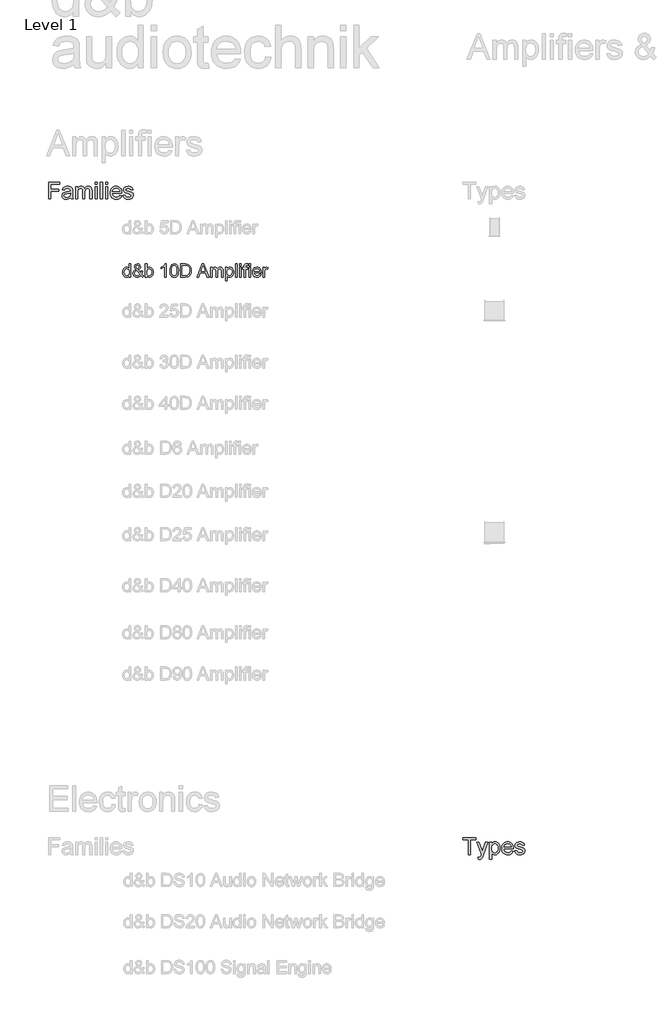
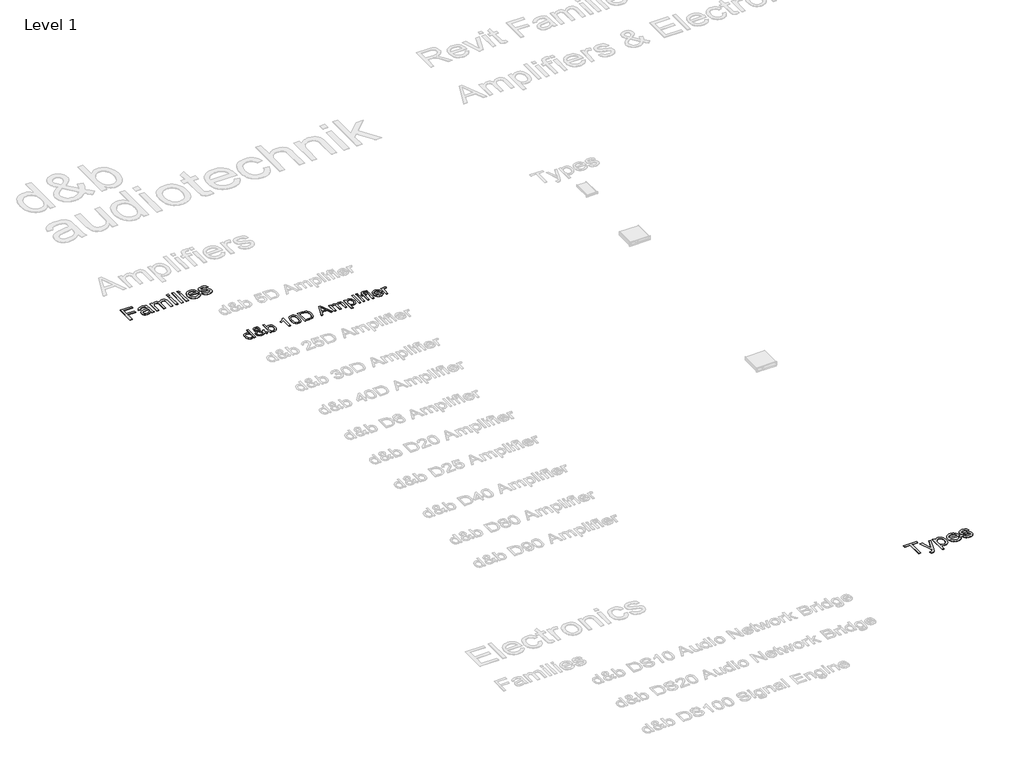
# One storey, part 10 of 14: 3 proxies.
"""IFC4 building model written with IfcOpenShell, lengths in millimetres."""

from ifc_helpers import new_model, si_unit, origin, origin_with_axes, place, context, project, spatial, polyline, outline, extrude, element, save

model = new_model("IFC4")

# Units and contexts
model_context = context("Model", 3, world=origin())
ifc_project = project(units=[si_unit("LENGTHUNIT", "METRE", prefix="MILLI")], contexts=[model_context])

# Site, building, storey
site = spatial("IfcSite", under=ifc_project)
building = spatial("IfcBuilding", under=site)
storey = spatial("IfcBuildingStorey", under=building, Name="Level 1", Elevation=0.0)

# Proxies
placement = place(None, origin())
element("IfcBuildingElementProxy", 1, Name="300mm Arial", ObjectType="300mm Arial", at=placement, inside=storey, context=model_context, shape_type="SweptSolid", body=[
    extrude(outline(polyline([(-19191.0990778, 15547.5788956), (-19191.0990778, 15583.1162963), (-19202.3700624, 15565.5085443), (-19216.0230829, 15552.9315786), (-19232.0581394, 15545.3853992), (-19250.4752318, 15542.870006), (-19274.8290199, 15546.5120378), (-19297.1226688, 15557.438133), (-19315.9950151, 15574.8849367), (-19330.0848956, 15598.0890935), (-19338.8588811, 15626.1125045), (-19341.783543, 15658.0170705), (-19339.0888074, 15689.5261634), (-19331.0046005, 15717.9818357), (-19317.5401195, 15741.7654067), (-19298.7045614, 15759.2581956), (-19275.9234688, 15770.018744), (-19250.6223846, 15773.6055934), (-19232.1914966, 15771.0396165), (-19215.8943242, 15763.3416858), (-19202.0803553, 15751.5418708), (-19191.0990778, 15736.6702411), (-19191.0990778, 15848.947826), (-19153.4279615, 15848.947826), (-19153.4279615, 15547.5788956), (-19191.0990778, 15547.5788956)]), holes=[polyline([(-19304.1124267, 15658.1642233), (-19299.8633896, 15624.0891535), (-19287.1162785, 15599.8549271), (-19268.5934201, 15585.3695735), (-19247.017141, 15580.5411223), (-19225.4500591, 15585.1488443), (-19207.3962502, 15598.9720103), (-19195.1733709, 15622.2681376), (-19191.0990778, 15655.2947438), (-19195.2469473, 15691.4023616), (-19207.6905558, 15716.4367314), (-19226.2042172, 15731.0600407), (-19248.5622454, 15735.9344771), (-19270.3592536, 15731.2531787), (-19288.2199245, 15717.2092836), (-19300.1393011, 15693.0854217), (-19304.1124267, 15658.1642233)])]), origin_with_axes(), (0.0, 0.0, 1.0), 5.0),
    extrude(outline(polyline([(-18924.0903257, 15584.8085535), (-18943.2385835, 15566.460439), (-18964.0423104, 15553.3546429), (-18986.5382944, 15545.4911653), (-19010.7633237, 15542.870006), (-19032.744273, 15544.8105836), (-19052.3339892, 15550.6323161), (-19069.5324725, 15560.3352038), (-19084.3397228, 15573.9192464), (-19100.8392303, 15600.7194498), (-19106.3390661, 15630.4994973), (-19101.9152851, 15656.8950304), (-19088.6439421, 15680.605025), (-19066.5802195, 15701.611087), (-19035.7792994, 15719.8948221), (-19062.0828621, 15758.0073968), (-19068.6679498, 15786.260734), (-19063.4808136, 15811.699774), (-19047.9194053, 15833.5703586), (-19024.5037163, 15848.6351263), (-18995.7537383, 15853.6567156), (-18968.401712, 15848.8558555), (-18946.5311274, 15834.4532754), (-18932.1837296, 15813.3184548), (-18927.4012636, 15788.3208732), (-18930.9421278, 15767.3332054), (-18941.5647204, 15747.9274302), (-18959.2690415, 15730.1035475), (-18984.0550909, 15713.8615574), (-18929.5349792, 15645.9505411), (-18920.2459588, 15665.3563163), (-18913.274595, 15687.6683593), (-18875.6034787, 15679.501379), (-18887.1917616, 15644.6077718), (-18902.2381352, 15617.4764747), (-18880.827403, 15592.4972872), (-18856.7679206, 15571.8591073), (-18885.0212578, 15542.870006), (-18904.243092, 15560.4547654), (-18924.0903257, 15584.8085535)]), holes=[polyline([(-18949.3270305, 15611.9582447), (-19016.5758593, 15695.908916), (-19042.2632196, 15679.5197731), (-19057.9625837, 15664.3446408), (-19065.9916083, 15649.8500902), (-19068.6679498, 15635.5026924), (-19065.0075239, 15617.7339921), (-19054.0262464, 15599.3031041), (-19036.3311224, 15585.2316178), (-19012.5291573, 15580.5411223), (-18995.4870239, 15582.7300202), (-18977.9114616, 15589.2967138), (-18961.8442154, 15599.3398923), (-18949.3270305, 15611.9582447)]), polyline([(-19003.1113782, 15737.6267343), (-18983.4112974, 15750.1255251), (-18972.1357142, 15760.987241), (-18966.8382135, 15771.5546513), (-18965.0723799, 15783.1705253), (-18967.3992336, 15796.3315037), (-18974.3797944, 15806.8253376), (-18984.8552342, 15813.6955338), (-18997.6667247, 15815.9855993), (-19010.7541267, 15813.7139279), (-19021.4686898, 15806.898914), (-19028.6147976, 15796.8097503), (-19030.9968335, 15784.7156297), (-19027.7594719, 15770.9200549), (-19017.9738108, 15755.5793757), (-19003.1113782, 15737.6267343)])]), origin_with_axes(), (0.0, 0.0, 1.0), 5.0),
    extrude(outline(polyline([(-18781.4256879, 15547.5788956), (-18819.0968043, 15547.5788956), (-18819.0968043, 15848.947826), (-18781.4256879, 15848.947826), (-18781.4256879, 15737.1852759), (-18769.0372618, 15753.1191648), (-18755.0485489, 15764.500514), (-18739.4595493, 15771.3293236), (-18722.2702631, 15773.6055934), (-18702.8644879, 15771.5546513), (-18684.5255704, 15765.4018249), (-18668.3019744, 15755.5333904), (-18655.2421636, 15742.3356238), (-18645.0058471, 15725.9372839), (-18637.252734, 15706.4671293), (-18632.3691005, 15684.7345004), (-18630.7412227, 15661.5487377), (-18632.4265821, 15634.7945196), (-18637.4826603, 15611.2592689), (-18645.9094572, 15590.9429858), (-18657.706973, 15573.84567), (-18671.8681305, 15560.293817), (-18687.3858529, 15550.613922), (-18704.2601402, 15544.805985), (-18722.4909923, 15542.870006), (-18740.2458971, 15545.3670051), (-18755.986648, 15552.8580022), (-18769.7132449, 15565.3429974), (-18781.4256879, 15582.8219907), (-18781.4256879, 15547.5788956)]), holes=[polyline([(-18781.4256879, 15659.7829041), (-18778.850514, 15628.3657817), (-18771.1249921, 15607.1022024), (-18761.9969201, 15595.4817299), (-18751.388123, 15587.1813924), (-18739.298601, 15582.2011899), (-18725.7283539, 15580.5411223), (-18703.986528, 15585.4339529), (-18685.4084872, 15600.1124445), (-18672.6613761, 15624.4846267), (-18668.412339, 15658.4585289), (-18672.4866321, 15692.9290719), (-18684.7095114, 15717.0253426), (-18702.708138, 15731.2071935), (-18724.1096731, 15735.9344771), (-18745.851499, 15731.0416466), (-18764.4295398, 15716.363155), (-18777.1766509, 15692.4324312), (-18781.4256879, 15659.7829041)])]), origin_with_axes(), (0.0, 0.0, 1.0), 5.0),
    extrude(outline(polyline([(-18338.7900713, 15547.5788956), (-18376.4611877, 15547.5788956), (-18376.4611877, 15782.4347613), (-18412.1457412, 15757.0141154), (-18451.8034203, 15737.9946163), (-18451.8034203, 15773.6055934), (-18422.2165108, 15789.7004307), (-18396.5843328, 15808.8486886), (-18376.3784142, 15829.210957), (-18363.070283, 15848.947826), (-18338.7900713, 15848.947826), (-18338.7900713, 15547.5788956)])), origin_with_axes(), (0.0, 0.0, 1.0), 5.0),
    extrude(outline(polyline([(-18249.3211701, 15695.8353396), (-18246.5528581, 15744.0738663), (-18238.2479221, 15782.5451259), (-18224.4891354, 15811.8377298), (-18205.3592717, 15832.540289), (-18180.7203751, 15844.8459418), (-18150.4344898, 15848.947826), (-18127.2211359, 15846.5198049), (-18106.4358032, 15839.2357414), (-18089.0533789, 15827.3807441), (-18076.0487504, 15811.2399215), (-18066.2263011, 15790.9512295), (-18058.3904146, 15766.6526237), (-18053.2584608, 15735.7965214), (-18051.5478095, 15695.8353396), (-18054.2885304, 15647.8727245), (-18062.510693, 15609.4934354), (-18076.1867061, 15580.1732404), (-18095.2889787, 15559.3879076), (-18119.9830577, 15546.9994814), (-18150.4344898, 15542.870006), (-18171.1830343, 15544.6634308), (-18189.5771341, 15550.0437049), (-18205.6167891, 15559.0108286), (-18219.3019993, 15571.5648017), (-18232.4353865, 15594.2585222), (-18241.8163774, 15622.5348521), (-18247.4449719, 15656.3937912), (-18249.3211701, 15695.8353396)]), holes=[polyline([(-18211.6500538, 15695.908916), (-18207.2354699, 15636.6523237), (-18201.7172399, 15616.384325), (-18193.991718, 15602.3565247), (-18174.2732431, 15585.9949729), (-18150.4344898, 15580.5411223), (-18126.5957365, 15586.013367), (-18106.8772616, 15602.4301011), (-18099.1517397, 15616.480894), (-18093.6335098, 15636.7442942), (-18089.2189258, 15695.908916), (-18093.486357, 15753.8319362), (-18098.8206459, 15774.0332562), (-18106.2886504, 15788.3944496), (-18125.9703371, 15805.5561447), (-18150.8759482, 15811.2767097), (-18174.4571841, 15806.2367264), (-18193.4031069, 15791.1167764), (-18201.3861462, 15775.4817916), (-18207.0883171, 15754.4021533), (-18211.6500538, 15695.908916)])]), origin_with_axes(), (0.0, 0.0, 1.0), 5.0),
    extrude(outline(polyline([(-18004.4589141, 15547.5788956), (-18004.4589141, 15848.947826), (-17900.4954623, 15848.947826), (-17846.7111146, 15844.6068185), (-17822.6884203, 15836.2375031), (-17802.4181224, 15823.0489336), (-17781.5776074, 15800.0930971), (-17766.7335688, 15771.5454542), (-17757.8492187, 15737.9578281), (-17754.8877686, 15699.8820416), (-17756.8927255, 15667.5360172), (-17762.9075961, 15639.0711478), (-17772.0678578, 15614.8369213), (-17783.5089878, 15595.1828258), (-17796.6791633, 15579.6674026), (-17811.0265611, 15567.8491935), (-17827.4984774, 15559.084405), (-17847.0422084, 15552.7292435), (-17895.4922672, 15547.5788956), (-18004.4589141, 15547.5788956)]), holes=[polyline([(-17966.7877978, 15585.2500119), (-17900.1275803, 15585.2500119), (-17872.5548248, 15586.6111753), (-17851.6407333, 15590.6946654), (-17835.8585957, 15597.261359), (-17823.6817017, 15606.0721328), (-17810.5942997, 15622.3785022), (-17800.7626534, 15643.4857317), (-17794.609827, 15669.4857917), (-17792.5588849, 15700.4706528), (-17796.5779957, 15741.5262834), (-17808.6353281, 15771.8397598), (-17826.4500137, 15792.6618808), (-17847.7411842, 15805.243445), (-17869.4094337, 15809.7683935), (-17901.1576499, 15811.2767097), (-17966.7877978, 15811.2767097), (-17966.7877978, 15585.2500119)])]), origin_with_axes(), (0.0, 0.0, 1.0), 5.0),
    extrude(outline(polyline([(-17620.4636876, 15547.5788956), (-17500.1662751, 15848.947826), (-17468.0869652, 15848.947826), (-17347.7895527, 15547.5788956), (-17387.5943846, 15547.5788956), (-17422.1017158, 15641.7566863), (-17546.2251009, 15641.7566863), (-17580.6588557, 15547.5788956), (-17620.4636876, 15547.5788956)]), holes=[polyline([(-17532.3927379, 15679.4278027), (-17435.8605024, 15679.4278027), (-17463.0101936, 15753.5192365), (-17484.1266202, 15811.2767097), (-17502.8886019, 15759.9939596), (-17532.3927379, 15679.4278027)])]), origin_with_axes(), (0.0, 0.0, 1.0), 5.0),
    extrude(outline(polyline([(-17312.252152, 15547.5788956), (-17312.252152, 15768.8967039), (-17274.5810357, 15768.8967039), (-17274.5810357, 15732.4763864), (-17263.2502702, 15749.2058201), (-17248.6821432, 15762.3116162), (-17231.3732954, 15770.7820991), (-17211.8203673, 15773.6055934), (-17190.8694877, 15770.7269168), (-17174.0756746, 15762.090887), (-17161.5308986, 15748.267721), (-17153.3271301, 15729.827636), (-17139.5959346, 15748.9804924), (-17123.9333587, 15762.6611041), (-17106.3394023, 15770.8694711), (-17086.8140654, 15773.6055934), (-17058.4963488, 15769.0530537), (-17037.5546662, 15755.3954347), (-17024.614417, 15732.2648542), (-17020.3010006, 15699.2934304), (-17020.3010006, 15547.5788956), (-17057.9721169, 15547.5788956), (-17057.9721169, 15683.1066226), (-17061.4669959, 15714.5605332), (-17066.3782205, 15723.2333512), (-17074.1221365, 15730.0483652), (-17084.0825415, 15734.4629491), (-17095.6432332, 15735.9344771), (-17116.0514869, 15732.1636867), (-17132.6889502, 15720.8513153), (-17143.7530012, 15701.2248109), (-17147.4410182, 15672.5116211), (-17147.4410182, 15547.5788956), (-17185.1121345, 15547.5788956), (-17185.1121345, 15687.3004773), (-17187.2918353, 15708.6008449), (-17193.8309378, 15723.7943713), (-17205.3364472, 15732.8994506), (-17222.4153688, 15735.9344771), (-17236.9283135, 15733.9111261), (-17250.300824, 15727.8410732), (-17261.3372839, 15717.8714711), (-17268.8420766, 15704.1494727), (-17273.1462959, 15685.1115795), (-17274.5810357, 15659.1942929), (-17274.5810357, 15547.5788956), (-17312.252152, 15547.5788956)])), origin_with_axes(), (0.0, 0.0, 1.0), 5.0),
    extrude(outline(polyline([(-16963.7943262, 15462.8188839), (-16963.7943262, 15768.8967039), (-16926.1232099, 15768.8967039), (-16926.1232099, 15731.9613516), (-16913.8359512, 15750.1807074), (-16900.0771646, 15763.194533), (-16884.0375096, 15771.0028283), (-16864.9076459, 15773.6055934), (-16839.4318177, 15769.9635617), (-16817.1565629, 15759.0374664), (-16799.0199805, 15741.4894952), (-16785.9601697, 15717.9818357), (-16778.0691009, 15690.2251392), (-16775.4387446, 15659.9300569), (-16778.4093918, 15627.7127912), (-16787.3213331, 15598.8984339), (-16801.8894601, 15574.949316), (-16821.8286642, 15557.3277685), (-16845.0512152, 15546.4844466), (-16869.4693826, 15542.870006), (-16886.7874275, 15545.2888302), (-16902.2476684, 15552.5453025), (-16915.4822232, 15563.4989889), (-16926.1232099, 15577.0094552), (-16926.1232099, 15462.8188839), (-16963.7943262, 15462.8188839)]), holes=[polyline([(-16926.1232099, 15656.4719662), (-16922.0489168, 15622.700399), (-16909.8260375, 15599.0823749), (-16891.7906227, 15585.1764355), (-16870.278723, 15580.5411223), (-16848.4173354, 15585.3419824), (-16829.9220681, 15599.7445625), (-16817.3129127, 15624.2271093), (-16813.109861, 15659.2678693), (-16817.2117452, 15692.8554955), (-16829.5173979, 15716.8046134), (-16847.5252216, 15731.1520112), (-16868.7336186, 15735.9344771), (-16890.0247891, 15730.8485085), (-16908.7223915, 15715.5906028), (-16921.7730053, 15690.6390065), (-16926.1232099, 15656.4719662)])]), origin_with_axes(), (0.0, 0.0, 1.0), 5.0),
    extrude(outline(polyline([(-16733.0587388, 15547.5788956), (-16733.0587388, 15848.947826), (-16695.3876225, 15848.947826), (-16695.3876225, 15547.5788956), (-16733.0587388, 15547.5788956)])), origin_with_axes(), (0.0, 0.0, 1.0), 5.0),
    extrude(outline(polyline([(-16638.880948, 15547.5788956), (-16638.880948, 15768.8967039), (-16601.2098317, 15768.8967039), (-16601.2098317, 15547.5788956), (-16638.880948, 15547.5788956)])), origin_with_axes(), (0.0, 0.0, 1.0), 5.0),
    extrude(outline(polyline([(-16638.880948, 15811.2767097), (-16638.880948, 15848.947826), (-16601.2098317, 15848.947826), (-16601.2098317, 15811.2767097), (-16638.880948, 15811.2767097)])), origin_with_axes(), (0.0, 0.0, 1.0), 5.0),
    extrude(outline(polyline([(-16535.2853782, 15547.5788956), (-16535.2853782, 15731.2255876), (-16568.247605, 15731.2255876), (-16568.247605, 15768.8967039), (-16535.2853782, 15768.8967039), (-16535.2853782, 15791.1903528), (-16531.3122526, 15822.6074752), (-16523.7338835, 15835.1338571), (-16512.0352361, 15845.0482769), (-16495.6644873, 15851.5046059), (-16474.0698142, 15853.6567156), (-16439.7096358, 15849.5364372), (-16445.2278658, 15814.2197657), (-16466.9329035, 15815.9855993), (-16481.2527102, 15814.4221008), (-16490.6612922, 15809.7316053), (-16495.8760195, 15800.7736788), (-16497.6142619, 15786.4078868), (-16497.6142619, 15768.8967039), (-16455.234256, 15768.8967039), (-16455.234256, 15731.2255876), (-16497.6142619, 15731.2255876), (-16497.6142619, 15547.5788956), (-16535.2853782, 15547.5788956)])), origin_with_axes(), (0.0, 0.0, 1.0), 5.0),
    extrude(outline(polyline([(-16422.2720293, 15547.5788956), (-16422.2720293, 15768.8967039), (-16384.600913, 15768.8967039), (-16384.600913, 15547.5788956), (-16422.2720293, 15547.5788956)])), origin_with_axes(), (0.0, 0.0, 1.0), 5.0),
    extrude(outline(polyline([(-16422.2720293, 15811.2767097), (-16422.2720293, 15848.947826), (-16384.600913, 15848.947826), (-16384.600913, 15811.2767097), (-16422.2720293, 15811.2767097)])), origin_with_axes(), (0.0, 0.0, 1.0), 5.0),
    extrude(outline(polyline([(-16173.1423421, 15613.5033491), (-16136.2069898, 15608.7944596), (-16149.515121, 15580.9641866), (-16170.7511092, 15560.1604598), (-16199.4367077, 15547.1926195), (-16235.0936701, 15542.870006), (-16258.4679724, 15544.7347079), (-16279.2946919, 15550.3288135), (-16297.5738285, 15559.6523228), (-16313.3053823, 15572.7052358), (-16325.9559244, 15589.1242691), (-16334.9920259, 15608.5461392), (-16340.4136868, 15630.9708461), (-16342.2209071, 15656.3983898), (-16340.3952927, 15682.6881568), (-16334.9184495, 15705.860124), (-16325.7903775, 15725.9142913), (-16313.0110767, 15742.8506586), (-16297.3209096, 15756.3059426), (-16279.4602387, 15765.9168597), (-16259.4290641, 15771.68341), (-16237.2273857, 15773.6055934), (-16215.7407779, 15771.6880085), (-16196.3097108, 15765.9352538), (-16178.9341843, 15756.3473293), (-16163.6141985, 15742.924235), (-16151.1085099, 15726.0246559), (-16142.1758752, 15706.0072768), (-16136.8162944, 15682.8720978), (-16135.0297674, 15656.6191189), (-16135.2504966, 15646.4655759), (-16304.5497908, 15646.4655759), (-16298.0290825, 15618.267421), (-16282.8815413, 15597.5372705), (-16261.0201537, 15584.7901594), (-16234.3579061, 15580.5411223), (-16214.3083374, 15582.509291), (-16197.4225538, 15588.413797), (-16183.7005554, 15598.6225224), (-16173.1423421, 15613.5033491)]), holes=[polyline([(-16304.5497908, 15684.1366922), (-16172.7008837, 15684.1366922), (-16177.7960494, 15704.0391081), (-16187.7840455, 15718.2761413), (-16209.7466007, 15731.5198932), (-16237.3745385, 15735.9344771), (-16262.7675932, 15732.412007), (-16283.7644581, 15721.8445967), (-16298.3601763, 15705.3726804), (-16304.5497908, 15684.1366922)])]), origin_with_axes(), (0.0, 0.0, 1.0), 5.0),
    extrude(outline(polyline([(-16097.3586511, 15547.5788956), (-16097.3586511, 15768.8967039), (-16064.3964244, 15768.8967039), (-16064.3964244, 15736.1552063), (-16052.2195303, 15755.1379173), (-16040.9991295, 15766.3215299), (-16029.7419404, 15771.7845775), (-16017.4546818, 15773.6055934), (-15998.6927, 15770.6993257), (-15979.6364127, 15761.9805224), (-15992.2179769, 15728.2089552), (-16005.4617287, 15734.0030966), (-16018.7054806, 15735.9344771), (-16029.9534726, 15734.076673), (-16040.0058481, 15728.5032608), (-16048.1268431, 15719.6373047), (-16053.5806937, 15707.9018691), (-16058.1608245, 15686.859019), (-16059.6875348, 15663.9031825), (-16059.6875348, 15547.5788956), (-16097.3586511, 15547.5788956)])), origin_with_axes(), (0.0, 0.0, 1.0), 5.0),
])
element("IfcBuildingElementProxy", 2, Name="400mm Arial", ObjectType="400mm Arial", at=placement, inside=storey, context=model_context, shape_type="SweptSolid", body=[
    extrude(outline(polyline([(-21056.720891, 17351.3054836), (-21056.720891, 17743.0630593), (-20793.5087698, 17743.0630593), (-20793.5087698, 17694.0933624), (-21007.7511941, 17694.0933624), (-21007.7511941, 17577.7903321), (-20824.1148304, 17577.7903321), (-20824.1148304, 17528.8206351), (-21007.7511941, 17528.8206351), (-21007.7511941, 17351.3054836), (-21056.720891, 17351.3054836)])), origin_with_axes(), (0.0, 0.0, 1.0), 5.0),
    extrude(outline(polyline([(-20548.660285, 17388.0327563), (-20572.0571836, 17367.97144), (-20596.1475009, 17354.8443093), (-20621.4811893, 17347.5992809), (-20648.6082016, 17345.1842715), (-20670.4120309, 17346.6368638), (-20689.5318522, 17350.9946408), (-20705.9676654, 17358.2576024), (-20719.7194706, 17368.4257487), (-20730.5780466, 17380.8534831), (-20738.3341723, 17394.895209), (-20742.9878477, 17410.5509263), (-20744.5390729, 17427.8206351), (-20742.1957963, 17448.1210612), (-20735.1659668, 17466.5564305), (-20724.3223352, 17482.3376805), (-20710.5376524, 17494.6757487), (-20676.2493001, 17510.7439305), (-20633.879035, 17518.1085139), (-20583.8094327, 17525.855673), (-20548.9472168, 17534.9418472), (-20548.660285, 17545.8452563), (-20552.0317338, 17567.6998965), (-20562.1460804, 17581.9986654), (-20584.7658721, 17592.6151427), (-20616.2805501, 17596.1539684), (-20645.4519516, 17593.7987364), (-20665.8241107, 17586.7330404), (-20679.7163929, 17573.6656872), (-20689.4481638, 17553.3054836), (-20738.4178607, 17559.4266957), (-20729.9175056, 17586.2069987), (-20717.2327282, 17607.2486654), (-20699.1799346, 17623.3407582), (-20674.5755312, 17635.2723396), (-20644.4835568, 17642.660834), (-20609.9680501, 17645.1236654), (-20576.8632916, 17642.9477658), (-20550.6209857, 17636.4200669), (-20530.8346458, 17626.6046076), (-20517.097785, 17614.5654268), (-20507.9876997, 17599.6808387), (-20502.0816865, 17581.3291578), (-20499.690588, 17538.480673), (-20499.690588, 17477.5554836), (-20497.2038456, 17392.4801995), (-20487.4481638, 17351.3054836), (-20536.4178607, 17351.3054836), (-20544.2606638, 17368.3301048), (-20548.660285, 17388.0327563)]), holes=[polyline([(-20548.660285, 17485.9721502), (-20581.5618001, 17477.8185044), (-20627.6621789, 17470.9560518), (-20669.7933342, 17463.0176048), (-20680.7565208, 17457.5898112), (-20688.8743001, 17450.105673), (-20693.8956069, 17441.1390536), (-20695.5693759, 17431.2638169), (-20691.9229507, 17416.7020271), (-20680.9836751, 17404.7704457), (-20662.990659, 17396.8080877), (-20638.1830122, 17394.1539684), (-20611.8809289, 17397.0830641), (-20588.6394516, 17405.870351), (-20569.7975956, 17418.8181493), (-20556.6943759, 17434.228779), (-20550.8840066, 17450.105673), (-20548.9472168, 17472.103779), (-20548.660285, 17485.9721502)])]), origin_with_axes(), (0.0, 0.0, 1.0), 5.0),
    extrude(outline(polyline([(-20432.3572547, 17351.3054836), (-20432.3572547, 17639.0024533), (-20383.3875577, 17639.0024533), (-20383.3875577, 17591.6587033), (-20368.658391, 17613.405744), (-20349.720891, 17630.4423207), (-20327.2206543, 17641.4533292), (-20301.8032774, 17645.1236654), (-20274.5686657, 17641.3815963), (-20252.7379365, 17630.1553889), (-20236.4306448, 17612.1862838), (-20225.7663456, 17588.2155215), (-20207.9167954, 17613.1128344), (-20187.5565918, 17630.8966294), (-20164.6857348, 17641.5669064), (-20139.3042244, 17645.1236654), (-20119.7002057, 17643.6441732), (-20102.4932632, 17639.2056966), (-20087.683397, 17631.8082357), (-20075.2706069, 17621.4517904), (-20065.4581365, 17608.0168058), (-20058.4492291, 17591.3837269), (-20054.2438846, 17571.5525539), (-20052.8421032, 17548.5232866), (-20052.8421032, 17351.3054836), (-20101.8118001, 17351.3054836), (-20101.8118001, 17527.4816199), (-20106.3548872, 17568.369404), (-20112.7391202, 17579.6434334), (-20122.8056448, 17588.5024533), (-20135.7534431, 17594.2410896), (-20150.7814971, 17596.1539684), (-20177.3107348, 17591.2522165), (-20198.9382206, 17576.5469608), (-20207.3279874, 17565.2669537), (-20213.320678, 17551.03394), (-20218.1148304, 17513.7088927), (-20218.1148304, 17351.3054836), (-20267.0845274, 17351.3054836), (-20267.0845274, 17532.9333245), (-20269.9179791, 17560.6222449), (-20278.4183342, 17580.3727184), (-20293.3746552, 17592.2086559), (-20315.5760047, 17596.1539684), (-20334.4417717, 17593.5237601), (-20351.8250577, 17585.6331351), (-20366.1716486, 17572.6733813), (-20375.9273304, 17554.8357866), (-20381.5225009, 17530.0879173), (-20383.3875577, 17496.3973396), (-20383.3875577, 17351.3054836), (-20432.3572547, 17351.3054836)])), origin_with_axes(), (0.0, 0.0, 1.0), 5.0),
    extrude(outline(polyline([(-19979.3875577, 17351.3054836), (-19979.3875577, 17639.0024533), (-19930.4178607, 17639.0024533), (-19930.4178607, 17351.3054836), (-19979.3875577, 17351.3054836)])), origin_with_axes(), (0.0, 0.0, 1.0), 5.0),
    extrude(outline(polyline([(-19979.3875577, 17694.0933624), (-19979.3875577, 17743.0630593), (-19930.4178607, 17743.0630593), (-19930.4178607, 17694.0933624), (-19979.3875577, 17694.0933624)])), origin_with_axes(), (0.0, 0.0, 1.0), 5.0),
    extrude(outline(polyline([(-19856.9633153, 17351.3054836), (-19856.9633153, 17743.0630593), (-19807.9936183, 17743.0630593), (-19807.9936183, 17351.3054836), (-19856.9633153, 17351.3054836)])), origin_with_axes(), (0.0, 0.0, 1.0), 5.0),
    extrude(outline(polyline([(-19734.5390729, 17351.3054836), (-19734.5390729, 17639.0024533), (-19685.5693759, 17639.0024533), (-19685.5693759, 17351.3054836), (-19734.5390729, 17351.3054836)])), origin_with_axes(), (0.0, 0.0, 1.0), 5.0),
    extrude(outline(polyline([(-19734.5390729, 17694.0933624), (-19734.5390729, 17743.0630593), (-19685.5693759, 17743.0630593), (-19685.5693759, 17694.0933624), (-19734.5390729, 17694.0933624)])), origin_with_axes(), (0.0, 0.0, 1.0), 5.0),
    extrude(outline(polyline([(-19410.6886941, 17437.0024533), (-19362.6754365, 17430.8812411), (-19370.0370309, 17411.6508316), (-19379.975034, 17394.7039211), (-19392.4894457, 17380.0405096), (-19407.580266, 17367.6605972), (-19425.0920736, 17357.8272047), (-19444.8694469, 17350.8033529), (-19491.220891, 17345.1842715), (-19521.605775, 17347.6082475), (-19548.6789876, 17354.8801758), (-19572.4405288, 17367.0000563), (-19592.8903986, 17383.9678889), (-19609.3351784, 17405.3114317), (-19621.0814497, 17430.5584429), (-19628.1292125, 17459.7089223), (-19630.4784668, 17492.7628699), (-19628.1053015, 17526.937645), (-19620.9858058, 17557.0595082), (-19609.1199796, 17583.1284594), (-19592.5078229, 17605.1444987), (-19572.1117528, 17622.6353841), (-19548.8941865, 17635.1288737), (-19522.855124, 17642.6249675), (-19493.9945653, 17645.1236654), (-19466.0635461, 17642.6309452), (-19440.8045795, 17635.1527847), (-19418.2176654, 17622.6891839), (-19398.3028039, 17605.2401427), (-19382.0463231, 17583.2719253), (-19370.4345511, 17557.2507961), (-19363.4674879, 17527.1767549), (-19361.1451335, 17493.0498018), (-19361.4320653, 17479.8509381), (-19581.5087698, 17479.8509381), (-19578.6723292, 17460.3096858), (-19573.0323257, 17443.1953983), (-19564.5887592, 17428.5080759), (-19553.3416297, 17416.2477184), (-19524.9234242, 17399.6774059), (-19490.2644516, 17394.1539684), (-19464.2014782, 17396.7124438), (-19442.2511941, 17404.3878699), (-19424.4135994, 17417.6584665), (-19410.6886941, 17437.0024533)]), holes=[polyline([(-19581.5087698, 17528.8206351), (-19410.1148304, 17528.8206351), (-19416.7381732, 17554.6923207), (-19429.721838, 17573.199423), (-19443.076123, 17583.2420366), (-19458.2715539, 17590.4153321), (-19494.1858532, 17596.1539684), (-19527.1949677, 17591.5750148), (-19554.4893569, 17577.838154), (-19573.4627234, 17556.4258671), (-19581.5087698, 17528.8206351)])]), origin_with_axes(), (0.0, 0.0, 1.0), 5.0),
    extrude(outline(polyline([(-19330.5390729, 17437.0024533), (-19281.5693759, 17443.1236654), (-19273.8461278, 17422.1776427), (-19258.9017622, 17406.7789684), (-19236.6406354, 17397.3102184), (-19206.9671032, 17394.1539684), (-19177.6522357, 17397.0471976), (-19157.0409668, 17405.7268851), (-19144.8463645, 17418.3040631), (-19140.7814971, 17432.8897639), (-19144.8702755, 17445.371298), (-19157.1366107, 17454.8878699), (-19207.5409668, 17468.8518851), (-19281.2824441, 17492.8106919), (-19299.9449677, 17504.8498728), (-19313.4666297, 17520.7865442), (-19321.680053, 17539.6044893), (-19324.4178607, 17560.2874911), (-19322.2180501, 17579.2608576), (-19315.6186183, 17596.775654), (-19305.2173399, 17612.1384618), (-19291.6119895, 17624.6558624), (-19260.4798872, 17639.1459192), (-19218.3487319, 17645.1236654), (-19186.4753891, 17642.7206114), (-19158.7625577, 17635.5114495), (-19136.4775198, 17624.2015536), (-19120.8875577, 17609.496298), (-19110.5580122, 17590.3077326), (-19104.0542244, 17565.5479078), (-19153.0239213, 17559.4266957), (-19159.2049109, 17574.8373254), (-19171.4353797, 17586.4461086), (-19189.8348825, 17593.7270035), (-19214.5229744, 17596.1539684), (-19242.6422925, 17593.8346029), (-19261.3885047, 17586.8765063), (-19271.933249, 17576.8338927), (-19275.4481638, 17565.260976), (-19269.6138835, 17551.010029), (-19251.345891, 17540.2022639), (-19209.1669138, 17529.7770745), (-19137.2904933, 17506.7268851), (-19118.3051713, 17495.7039211), (-19103.9107585, 17480.6160896), (-19094.8365397, 17461.4155688), (-19091.8118001, 17438.0545366), (-19095.3625814, 17413.9044419), (-19106.0149251, 17391.1890063), (-19123.3623446, 17371.6895982), (-19146.9983532, 17357.1875858), (-19175.5480691, 17348.1851), (-19207.6366107, 17345.1842715), (-19233.9924938, 17346.630886), (-19257.0127944, 17350.9707298), (-19276.6975127, 17358.2038027), (-19293.0466486, 17368.3301048), (-19306.4009336, 17381.3018141), (-19317.1010994, 17397.0711086), (-19325.1471458, 17415.6379883), (-19330.5390729, 17437.0024533)])), origin_with_axes(), (0.0, 0.0, 1.0), 5.0),
])
element("IfcBuildingElementProxy", 3, Name="400mm Arial", ObjectType="400mm Arial", at=placement, inside=storey, context=model_context, shape_type="SweptSolid", body=[
    extrude(outline(polyline([(-11345.9583027, 2200.0884774), (-11345.9583027, 2542.8763562), (-11474.5037572, 2542.8763562), (-11474.5037572, 2591.8460532), (-11168.4431512, 2591.8460532), (-11168.4431512, 2542.8763562), (-11296.9886057, 2542.8763562), (-11296.9886057, 2200.0884774), (-11345.9583027, 2200.0884774)])), origin_with_axes(), (0.0, 0.0, 1.0), 5.0),
    extrude(outline(polyline([(-11119.4734542, 2089.9066592), (-11125.5946663, 2137.0591214), (-11100.7272421, 2132.7551441), (-11087.6479334, 2134.1061147), (-11077.4857648, 2138.1590267), (-11063.2348179, 2153.2229471), (-11049.8446663, 2189.2807123), (-11046.0189088, 2201.1405608), (-11150.0795148, 2487.7854471), (-11098.5274315, 2487.7854471), (-11043.2452345, 2327.9644244), (-11024.0208027, 2264.0742729), (-11004.7963709, 2320.5998411), (-10948.0795148, 2487.7854471), (-10896.9100072, 2487.7854471), (-10997.0492118, 2193.2021138), (-11023.0643633, 2129.3119623), (-11036.3827819, 2108.9158922), (-11051.4706133, 2094.7845002), (-11068.9734542, 2086.5352104), (-11089.5369012, 2083.7854471), (-11119.4734542, 2089.9066592)])), origin_with_axes(), (0.0, 0.0, 1.0), 5.0),
    extrude(outline(polyline([(-10856.261333, 2089.9066592), (-10856.261333, 2487.7854471), (-10807.291636, 2487.7854471), (-10807.291636, 2439.7721896), (-10791.3190982, 2463.45602), (-10773.4336815, 2480.3730418), (-10752.5833027, 2490.5232549), (-10727.7158785, 2493.9066592), (-10694.5991644, 2489.1722842), (-10665.6429618, 2474.9691592), (-10642.0667307, 2452.1580797), (-10625.0899315, 2421.5998411), (-10614.832119, 2385.5181649), (-10611.4128482, 2346.1367729), (-10615.2744722, 2304.2566829), (-10626.8593444, 2266.8001252), (-10645.7968444, 2235.6680229), (-10671.7163519, 2212.7612994), (-10701.9039703, 2198.6657738), (-10733.6458027, 2193.9672653), (-10756.1579949, 2197.1115598), (-10776.2551777, 2206.5444433), (-10793.4591313, 2220.7834348), (-10807.291636, 2238.3460532), (-10807.291636, 2089.9066592), (-10856.261333, 2089.9066592)]), holes=[polyline([(-10807.291636, 2341.6415077), (-10801.9953529, 2297.7409396), (-10795.374999, 2280.7402293), (-10786.1065035, 2267.039235), (-10762.6617828, 2248.9625305), (-10749.2447314, 2244.4433543), (-10734.697886, 2242.9369623), (-10719.9418195, 2244.497154), (-10706.2796805, 2249.1777293), (-10682.2371853, 2267.9000305), (-10672.6757802, 2282.0971777), (-10665.8462052, 2299.7255513), (-10660.3825451, 2345.2759774), (-10665.7146947, 2388.9374358), (-10672.3798818, 2406.0696564), (-10681.7111436, 2420.069538), (-10705.1199978, 2438.7201062), (-10718.3846166, 2443.3827483), (-10732.6893633, 2444.9369623), (-10746.9492769, 2443.2841155), (-10760.3663283, 2438.325575), (-10784.6718444, 2418.491413), (-10794.5680032, 2403.771213), (-10801.6366881, 2386.0561621), (-10805.8778991, 2365.3462603), (-10807.291636, 2341.6415077)])]), origin_with_axes(), (0.0, 0.0, 1.0), 5.0),
    extrude(outline(polyline([(-10354.8958027, 2285.7854471), (-10306.8825451, 2279.664235), (-10314.2441396, 2260.4338254), (-10324.1821427, 2243.4869149), (-10336.6965544, 2228.8235035), (-10351.7873747, 2216.4435911), (-10369.2991822, 2206.6101985), (-10389.0765555, 2199.5863467), (-10435.4279997, 2193.9672653), (-10465.8128837, 2196.3912414), (-10492.8860963, 2203.6631697), (-10516.6476375, 2215.7830501), (-10537.0975072, 2232.7508827), (-10553.5422871, 2254.0944256), (-10565.2885584, 2279.3414367), (-10572.3363212, 2308.4919161), (-10574.6855754, 2341.5458638), (-10572.3124102, 2375.7206389), (-10565.1929144, 2405.8425021), (-10553.3270882, 2431.9114533), (-10536.7149315, 2453.9274926), (-10516.3188614, 2471.418378), (-10493.1012951, 2483.9118676), (-10467.0622326, 2491.4079613), (-10438.2016739, 2493.9066592), (-10410.2706547, 2491.4139391), (-10385.0116881, 2483.9357786), (-10362.4247741, 2471.4721777), (-10342.5099125, 2454.0231365), (-10326.2534317, 2432.0549192), (-10314.6416597, 2406.0337899), (-10307.6745965, 2375.9597487), (-10305.3522421, 2341.8327956), (-10305.6391739, 2328.633932), (-10525.7158785, 2328.633932), (-10522.8794379, 2309.0926796), (-10517.2394343, 2291.9783922), (-10508.7958678, 2277.2910698), (-10497.5487383, 2265.0307123), (-10469.1305328, 2248.4603998), (-10434.4715603, 2242.9369623), (-10408.4085868, 2245.4954377), (-10386.4583027, 2253.1708638), (-10368.620708, 2266.4414604), (-10354.8958027, 2285.7854471)]), holes=[polyline([(-10525.7158785, 2377.6036289), (-10354.3219391, 2377.6036289), (-10360.9452819, 2403.4753146), (-10373.9289466, 2421.9824168), (-10387.2832317, 2432.0250305), (-10402.4786625, 2439.1983259), (-10438.3929618, 2444.9369623), (-10471.4020764, 2440.3580087), (-10498.6964656, 2426.6211479), (-10517.6698321, 2405.208861), (-10525.7158785, 2377.6036289)])]), origin_with_axes(), (0.0, 0.0, 1.0), 5.0),
    extrude(outline(polyline([(-10274.7461815, 2285.7854471), (-10225.7764845, 2291.9066592), (-10218.0532364, 2270.9606365), (-10203.1088709, 2255.5619623), (-10180.847744, 2246.0932123), (-10151.1742118, 2242.9369623), (-10121.8593444, 2245.8301914), (-10101.2480754, 2254.5098789), (-10089.0534732, 2267.087057), (-10084.9886057, 2281.6727577), (-10089.0773841, 2294.1542918), (-10101.3437194, 2303.6708638), (-10151.7480754, 2317.6348789), (-10225.4895527, 2341.5936858), (-10244.1520764, 2353.6328666), (-10257.6737383, 2369.569538), (-10265.8871616, 2388.3874831), (-10268.6249694, 2409.070485), (-10266.4251588, 2428.0438515), (-10259.8257269, 2445.5586479), (-10249.4244485, 2460.9214557), (-10235.8190982, 2473.4388562), (-10204.6869959, 2487.928913), (-10162.5558406, 2493.9066592), (-10130.6824978, 2491.5036053), (-10102.9696663, 2484.2944433), (-10080.6846285, 2472.9845475), (-10065.0946663, 2458.2792918), (-10054.7651209, 2439.0907265), (-10048.261333, 2414.3309017), (-10097.23103, 2408.2096896), (-10103.4120196, 2423.6203193), (-10115.6424883, 2435.2291024), (-10134.0419911, 2442.5099973), (-10158.730083, 2444.9369623), (-10186.8494012, 2442.6175967), (-10205.5956133, 2435.6595002), (-10216.1403576, 2425.6168865), (-10219.6552724, 2414.0439699), (-10213.8209921, 2399.7930229), (-10195.5529997, 2388.9852577), (-10153.3740224, 2378.5600683), (-10081.4976019, 2355.5098789), (-10062.51228, 2344.4869149), (-10048.1178671, 2329.3990835), (-10039.0436483, 2310.1985627), (-10036.0189088, 2286.8375305), (-10039.56969, 2262.6874358), (-10050.2220338, 2239.9720002), (-10067.5694533, 2220.472592), (-10091.2054618, 2205.9705797), (-10119.7551777, 2196.9680939), (-10151.8437194, 2193.9672653), (-10178.1996024, 2195.4138799), (-10201.2199031, 2199.7537236), (-10220.9046214, 2206.9867966), (-10237.2537572, 2217.1130986), (-10250.6080423, 2230.0848079), (-10261.308208, 2245.8541024), (-10269.3542544, 2264.4209822), (-10274.7461815, 2285.7854471)])), origin_with_axes(), (0.0, 0.0, 1.0), 5.0),
])

save(model, "model.ifc")
